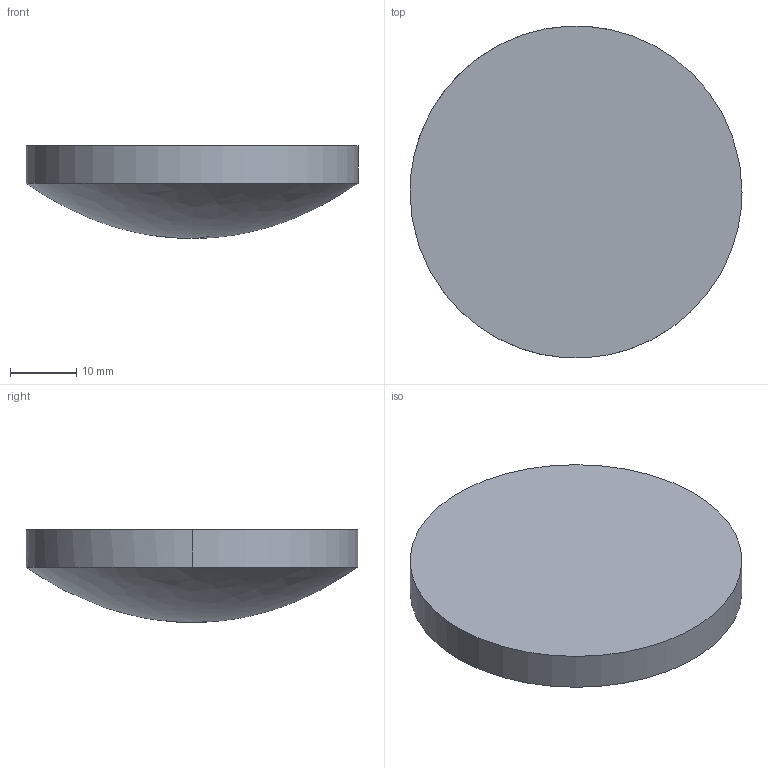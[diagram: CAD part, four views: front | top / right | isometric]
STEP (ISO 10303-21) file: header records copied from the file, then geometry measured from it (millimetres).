
FILE_DESCRIPTION ((), '1');
FILE_NAME ('\\fileserver\Daten\Applikationen\Optikdesign\SPA-Design\aktuelle SPA-Designs\Linsenkataloge - 2016-Juni\Zemax\AFL\AFL50-80.STP', '2016-05-24T14:16:31', ('Unknown'), ('Unknown'), 'HarmonyWare STEP v2.0.1', 'HarmonyWare Translators', '');
FILE_SCHEMA (('CONFIG_CONTROL_DESIGN'));
Length unit declared in the file: millimetre
Products named in the file (1): NONE
Bounding box: 50 x 49.96 x 14 mm (x, y, z)
Volume: 19483.9 mm3; surface area: 5032.6 mm2
Topology: 1 solids, 1 shells, 4 faces, 9 edges, 6 vertices
Faces by surface type: cylinder 2, bspline 1, plane 1
Entity records: 305 total; most frequent: CARTESIAN_POINT 154, ORIENTED_EDGE 16, EDGE_CURVE 8, PERSON 8, ORGANIZATION 8, PERSON_AND_ORGANIZATION 8, VERTEX_POINT 6, DIRECTION 6
